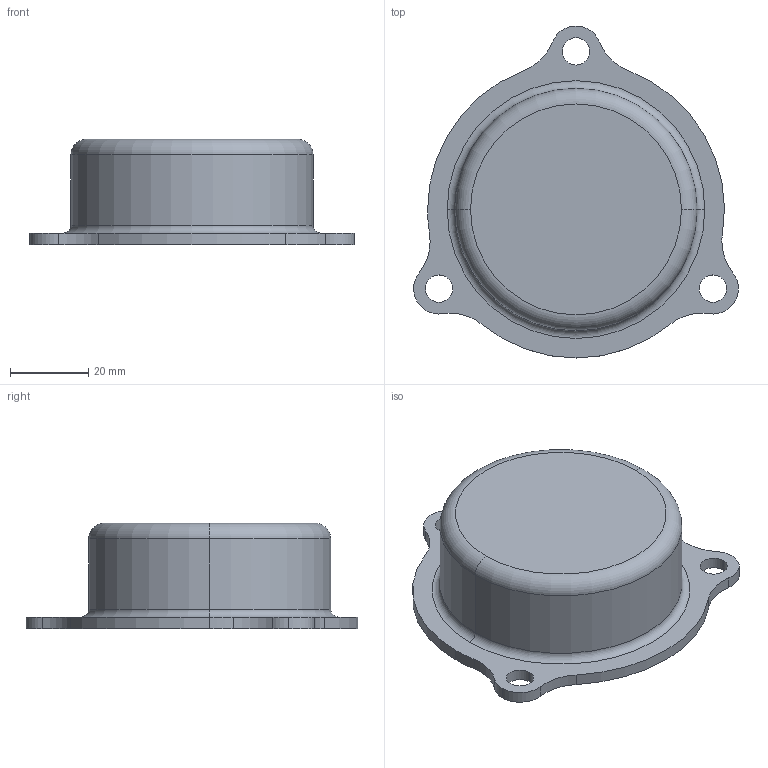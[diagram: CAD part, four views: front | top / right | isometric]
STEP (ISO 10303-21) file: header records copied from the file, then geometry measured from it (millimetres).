
FILE_DESCRIPTION (( 'STEP AP203' ), '1' );
FILE_NAME ('PEYD053.STEP', '2017-05-03T06:38:46', ( 'user' ), ( '' ), 'SwSTEP 2.0', 'SolidWorks 2012', '' );
FILE_SCHEMA (( 'CONFIG_CONTROL_DESIGN' ));
Length unit declared in the file: millimetre
Products named in the file (1): PEYD053
Bounding box: 83.15 x 85 x 27 mm (x, y, z)
Volume: 19773.9 mm3; surface area: 18818.2 mm2
Topology: 1 solids, 1 shells, 37 faces, 91 edges, 58 vertices
Faces by surface type: cylinder 25, torus 8, plane 4
Entity records: 1216 total; most frequent: DIRECTION 233, CARTESIAN_POINT 187, ORIENTED_EDGE 182, AXIS2_PLACEMENT_3D 104, EDGE_CURVE 91, CIRCLE 66, VERTEX_POINT 58, EDGE_LOOP 45
